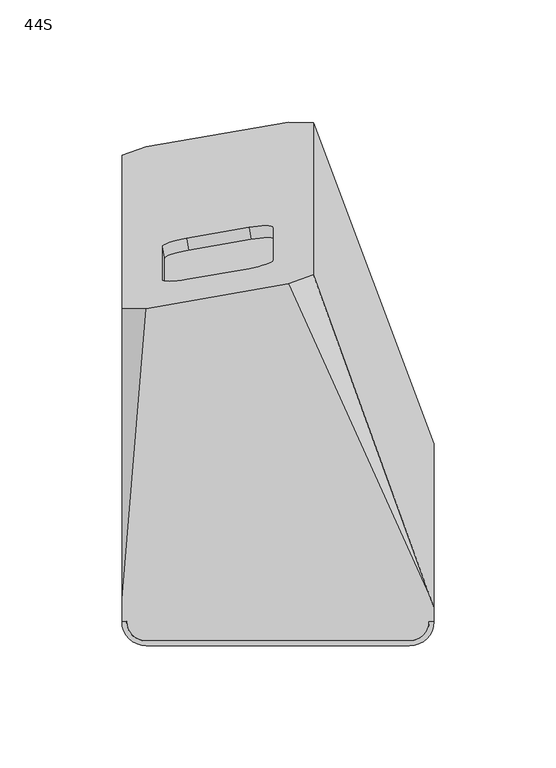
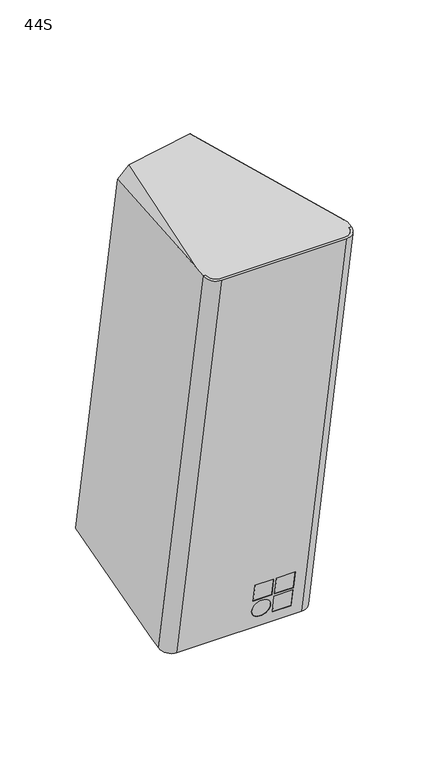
"""IFC4 building model written with IfcOpenShell, lengths in millimetres: proxy geometry, d&b xS-Series 44S Point Source : 44S."""

from ifc_helpers import new_model, si_unit, point, frame, frame_2d, origin, place, context, project, spatial, polyline, circle_curve, ellipse_curve, trimmed, segment, composite_curve, outline, extrude, source, transform, mapped, element, save
from ifc_brep_helpers import plane_surface, cylinder_surface, revolved_surface, advanced_brep


def proxy_44s_5af9e7c8(model_context):
    return source(origin(), model_context, "Body", "SolidModel", [
        advanced_brep(
        [(54.0, -106.4300743, 177.6469385), (-54.078429, -106.4300743, 177.6469385), (-62.0435242, -98.5621907, 178.8951081), (-64.0, -98.5621907, 178.8951081), (-54.0, -108.4401437, 177.3280589), (54.0, -108.4401437, 177.3280589), (64.0349048, -98.5277118, 178.9005778), (62.0, -98.5277118, 178.9005778), (-54.078429, -39.2527241, -203.3347465), (54.0, -39.2527241, -203.3347465), (62.0, -31.3981625, -201.810015), (64.0349048, -31.3981625, -201.810015), (54.0, -41.2506347, -203.7225819), (-54.0, -41.2506347, -203.7225819), (-64.0, -31.4324327, -201.8166675), (-62.0435242, -31.4324327, -201.8166675), (25.3333333, -44.2245591, -175.1380688), (25.3333333, -47.0608127, -159.0528755), (9.0, -47.0608127, -159.0528755), (9.0, -44.2245591, -175.1380688), (44.0, -44.2245591, -175.1380688), (44.0, -47.0608127, -159.0528755), (27.6666667, -47.0608127, -159.0528755), (27.6666667, -44.2245591, -175.1380688), (44.0, -40.9831265, -193.5211469), (44.0, -43.81938, -177.4359536), (27.6666667, -43.81938, -177.4359536), (27.6666667, -40.9831265, -193.5211469), (17.1666667, -43.81938, -177.4359536), (17.1666667, -40.9831265, -193.5211469), (25.3333333, -49.0648027, -159.406233), (25.3333333, -46.2285492, -175.4914263), (9.0, -46.2285492, -175.4914263), (9.0, -49.0648027, -159.406233), (44.0, -49.0648027, -159.406233), (44.0, -46.2285492, -175.4914263), (27.6666667, -46.2285492, -175.4914263), (27.6666667, -49.0648027, -159.406233), (44.0, -45.8233701, -177.7893111), (44.0, -42.9871165, -193.8745044), (27.6666667, -42.9871165, -193.8745044), (27.6666667, -45.8233701, -177.7893111), (17.1666667, -42.9871165, -193.8745044), (17.1666667, -45.8233701, -177.7893111)],
        [
            (0, 1),
            (1, 2, ellipse_curve(frame((-54.078429, -98.5621907, 178.8951081), z_axis=(0.0, 0.15668172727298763, -0.9876491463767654), x_axis=(0.0, 0.9876491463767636, 0.1566817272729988)), 7.9662739, 7.9650952)),
            (2, 3),
            (3, 4, ellipse_curve(frame((-54.0, -98.5621907, 178.8951081), z_axis=(0.0, -0.15668172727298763, 0.9876491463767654), x_axis=(0.0, -0.9876491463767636, -0.1566817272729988)), 10.0014799, 10.0)),
            (4, 5),
            (5, 6, ellipse_curve(frame((54.0, -98.5277118, 178.9005778), z_axis=(0.0, -0.15668172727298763, 0.9876491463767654), x_axis=(0.0, -0.9876491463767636, -0.1566817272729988)), 10.0363899, 10.0349048)),
            (6, 7),
            (7, 0, ellipse_curve(frame((54.0, -98.5277118, 178.9005778), z_axis=(0.0, 0.15668172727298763, -0.9876491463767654), x_axis=(0.0, 0.9876491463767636, 0.1566817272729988)), 8.0011839, 8.0)),
            (8, 9),
            (9, 10, ellipse_curve(frame((54.0, -31.3981625, -201.810015), z_axis=(0.0, -0.19056323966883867, 0.9816749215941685), x_axis=(0.0, -0.9816749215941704, -0.1905632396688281)), 8.0011839, 8.0)),
            (10, 11),
            (11, 12, ellipse_curve(frame((54.0, -31.3981625, -201.810015), z_axis=(0.0, 0.19056323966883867, -0.9816749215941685), x_axis=(0.0, 0.9816749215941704, 0.1905632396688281)), 10.0363899, 10.0349048)),
            (12, 13),
            (13, 14, ellipse_curve(frame((-54.0, -31.4324327, -201.8166675), z_axis=(0.0, 0.19056323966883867, -0.9816749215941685), x_axis=(0.0, 0.9816749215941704, 0.1905632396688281)), 10.0014799, 10.0)),
            (14, 15),
            (15, 8, ellipse_curve(frame((-54.078429, -31.4324327, -201.8166675), z_axis=(0.0, -0.19056323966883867, 0.9816749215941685), x_axis=(0.0, -0.9816749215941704, -0.1905632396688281)), 7.9662739, 7.9650952)),
            (0, 9),
            (8, 1),
            (16, 17),
            (17, 18),
            (18, 19),
            (19, 16),
            (20, 21),
            (21, 22),
            (22, 23),
            (23, 20),
            (24, 25),
            (25, 26),
            (26, 27),
            (27, 24),
            (28, 29, circle_curve(frame((17.1666667, -42.4012533, -185.4785502), z_axis=(0.0, -0.9848077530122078, -0.17364817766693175), x_axis=(0.0, -0.17364817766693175, 0.9848077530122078)), 8.1666667)),
            (29, 28, circle_curve(frame((17.1666667, -42.4012533, -185.4785502), z_axis=(0.0, -0.9848077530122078, -0.17364817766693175), x_axis=(0.0, -0.17364817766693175, 0.9848077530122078)), 8.1666667)),
            (15, 2),
            (14, 3),
            (13, 4),
            (12, 5),
            (30, 31),
            (31, 32),
            (32, 33),
            (33, 30),
            (34, 35),
            (35, 36),
            (36, 37),
            (37, 34),
            (38, 39),
            (39, 40),
            (40, 41),
            (41, 38),
            (42, 43, circle_curve(frame((17.1666667, -44.4052433, -185.8319078), z_axis=(0.0, 0.9848077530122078, 0.17364817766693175), x_axis=(0.0, -0.17364817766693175, 0.9848077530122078)), 8.1666667)),
            (43, 42, circle_curve(frame((17.1666667, -44.4052433, -185.8319078), z_axis=(0.0, 0.9848077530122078, 0.17364817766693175), x_axis=(0.0, -0.17364817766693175, 0.9848077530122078)), 8.1666667)),
            (11, 6),
            (10, 7),
            (16, 31),
            (30, 17),
            (19, 32),
            (18, 33),
            (20, 35),
            (34, 21),
            (23, 36),
            (22, 37),
            (24, 39),
            (38, 25),
            (27, 40),
            (26, 41),
            (28, 43),
            (42, 29),
        ],
        [
            plane_surface(frame((100.0, -129.4835015, 173.9897179), z_axis=(0.0, -0.15668172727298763, 0.9876491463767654), x_axis=(-1.0, 0.0, 0.0))),
            plane_surface(frame((100.0, 115.8297472, -173.2300576), z_axis=(0.0, 0.19056323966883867, -0.9816749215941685), x_axis=(-1.0, 0.0, 0.0))),
            plane_surface(frame((54.0, -108.0051552, 186.579666), z_axis=(0.0, 0.9848077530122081, 0.17364817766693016), x_axis=(0.0, 0.17364817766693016, -0.9848077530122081))),
            revolved_surface(polyline([(-46.1133338, -31.408636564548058, -201.95162222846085), (-46.1133338, -98.58598679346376, 179.03006281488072)]), (-54.078429, -29.8335557, -210.8843497), (0.0, 0.17364817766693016, -0.9848077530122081)),
            plane_surface(frame((-62.0435242, -100.1610677, 187.9627903), z_axis=(0.0, 0.9848077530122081, 0.17364817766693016), x_axis=(0.0, 0.17364817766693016, -0.9848077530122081))),
            cylinder_surface(frame((-54.0, -29.8335557, -210.8843497), z_axis=(0.0, -0.17364817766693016, 0.9848077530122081), x_axis=(1.0, 0.0, 0.0)), 10.0),
            plane_surface(frame((-54.0, -110.0091452, 186.2263085), z_axis=(0.0, -0.9848077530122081, -0.17364817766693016), x_axis=(0.0, 0.17364817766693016, -0.9848077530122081))),
            cylinder_surface(frame((54.0, -29.7991812, -210.8782886), z_axis=(0.0, -0.17364817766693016, 0.9848077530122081), x_axis=(1.0, 0.0, 0.0)), 10.0349048),
            plane_surface(frame((64.0349048, -100.1266931, 187.9688514), z_axis=(0.0, 0.9848077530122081, 0.17364817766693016), x_axis=(0.0, 0.17364817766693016, -0.9848077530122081))),
            revolved_surface(polyline([(62.0, -31.374262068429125, -201.9455611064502), (62.0, -98.55161229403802, 179.03612391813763)]), (54.0, -29.7991812, -210.8782886), (0.0, 0.17364817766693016, -0.9848077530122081)),
            plane_surface(frame((25.3333333, -46.2285492, -175.4914263), z_axis=(-1.0, 0.0, 0.0), x_axis=(0.0, 0.9848077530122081, 0.17364817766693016))),
            plane_surface(frame((9.0, -46.2285492, -175.4914263), z_axis=(0.0, -0.17364817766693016, 0.9848077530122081), x_axis=(0.0, 0.9848077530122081, 0.17364817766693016))),
            plane_surface(frame((9.0, -49.0648027, -159.406233), z_axis=(1.0, 0.0, 0.0), x_axis=(0.0, 0.9848077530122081, 0.17364817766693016))),
            plane_surface(frame((25.3333333, -49.0648027, -159.406233), z_axis=(0.0, 0.17364817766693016, -0.9848077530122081), x_axis=(0.0, 0.9848077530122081, 0.17364817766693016))),
            plane_surface(frame((44.0, -46.2285492, -175.4914263), z_axis=(-1.0, 0.0, 0.0), x_axis=(0.0, 0.9848077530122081, 0.17364817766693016))),
            plane_surface(frame((27.6666667, -46.2285492, -175.4914263), z_axis=(0.0, -0.17364817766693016, 0.9848077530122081), x_axis=(0.0, 0.9848077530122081, 0.17364817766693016))),
            plane_surface(frame((27.6666667, -49.0648027, -159.406233), z_axis=(1.0000000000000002, 0.0, 0.0), x_axis=(0.0, 0.9848077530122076, 0.1736481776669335))),
            plane_surface(frame((44.0, -49.0648027, -159.406233), z_axis=(0.0, 0.1736481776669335, -0.9848077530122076), x_axis=(0.0, 0.9848077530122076, 0.1736481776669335))),
            plane_surface(frame((44.0, -42.9871165, -193.8745044), z_axis=(-1.0, 0.0, 0.0), x_axis=(0.0, 0.9848077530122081, 0.17364817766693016))),
            plane_surface(frame((27.6666667, -42.9871165, -193.8745044), z_axis=(0.0, -0.17364817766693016, 0.9848077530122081), x_axis=(0.0, 0.9848077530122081, 0.17364817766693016))),
            plane_surface(frame((27.6666667, -45.8233701, -177.7893111), z_axis=(1.0, 0.0, 0.0), x_axis=(0.0, 0.9848077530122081, 0.17364817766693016))),
            plane_surface(frame((44.0, -45.8233701, -177.7893111), z_axis=(0.0, 0.17364817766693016, -0.9848077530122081), x_axis=(0.0, 0.9848077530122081, 0.17364817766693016))),
            revolved_surface(polyline([(17.1666667, -45.82337010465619, -177.78931107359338), (17.1666667, -43.8193800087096, -177.43595355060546)]), (17.1666667, 14.9316807, -175.3692071), (0.0, -0.9848077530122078, -0.17364817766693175)),
        ],
        [
            (0, [[1, 2, 3, 4, 5, 6, 7, 8]]),
            (1, [[9, 10, 11, 12, 13, 14, 15, 16]]),
            (2, [[17, -9, 18, -1], [19, 20, 21, 22], [23, 24, 25, 26], [27, 28, 29, 30], [31, 32]]),
            (3, [[-18, -16, 33, -2]]),
            (4, [[-33, -15, 34, -3]]),
            (5, [[-34, -14, 35, -4]]),
            (6, [[-35, -13, 36, -5], [37, 38, 39, 40], [41, 42, 43, 44], [45, 46, 47, 48], [49, 50]]),
            (7, [[-36, -12, 51, -6]]),
            (8, [[-51, -11, 52, -7]]),
            (9, [[-17, -8, -52, -10]]),
            (10, [[53, -37, 54, -19]]),
            (11, [[-53, -22, 55, -38]]),
            (12, [[-55, -21, 56, -39]]),
            (13, [[-56, -20, -54, -40]]),
            (14, [[57, -41, 58, -23]]),
            (15, [[-57, -26, 59, -42]]),
            (16, [[-59, -25, 60, -43]]),
            (17, [[-60, -24, -58, -44]]),
            (18, [[61, -45, 62, -27]]),
            (19, [[-61, -30, 63, -46]]),
            (20, [[-63, -29, 64, -47]]),
            (21, [[-64, -28, -62, -48]]),
            (22, [[65, -49, 66, -31]]),
            (22, [[-65, -32, -66, -50]]),
        ],
    ),
        extrude(outline(polyline([(0.0, -16.3333333), (0.0, 0.0), (5.0, 0.0), (5.0, -16.3333333), (0.0, -16.3333333)])), frame((9.0, -46.2285492, -175.4914263), z_axis=(0.0, -0.17364817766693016, 0.9848077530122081), x_axis=(0.0, 0.9848077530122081, 0.17364817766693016)), (0.0, 0.0, 1.0), 16.3333333),
        extrude(outline(polyline([(0.0, -16.3333333), (0.0, 0.0), (5.0, 0.0), (5.0, -16.3333333), (0.0, -16.3333333)])), frame((27.6666667, -46.2285492, -175.4914263), z_axis=(0.0, -0.17364817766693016, 0.9848077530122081), x_axis=(0.0, 0.9848077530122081, 0.17364817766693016)), (0.0, 0.0, 1.0), 16.3333333),
        extrude(outline(polyline([(0.0, -16.3333333), (0.0, 0.0), (5.0, 0.0), (5.0, -16.3333333), (0.0, -16.3333333)])), frame((27.6666667, -42.9871165, -193.8745044), z_axis=(0.0, -0.17364817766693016, 0.9848077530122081), x_axis=(0.0, 0.9848077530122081, 0.17364817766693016)), (0.0, 0.0, 1.0), 16.3333333),
        extrude(outline(composite_curve([segment(trimmed(circle_curve(frame_2d((-17.5, -26.8333334)), 8.1666667), [point((-17.5, -35.0))], [point((-17.5, -18.6666667))], False, "CARTESIAN"), True, "CONTINUOUS"), segment(trimmed(circle_curve(frame_2d((-17.5, -26.8333334)), 8.1666667), [point((-17.5, -18.6666667))], [point((-17.5, -35.0))], False, "CARTESIAN"), True, "CONTINUOUS")], self_intersect=False)), frame((-0.3333333, -49.0648027, -159.406233), z_axis=(0.0, 0.9848077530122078, 0.17364817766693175), x_axis=(-1.0, 0.0, 0.0)), (0.0, 0.0, 1.0), 5.0),
        advanced_brep(
        [(-64.0, -98.5621907, 178.8951081), (-62.0435242, -98.5621907, 178.8951081), (-54.078429, -106.4300743, 177.6469385), (54.0, -106.4300743, 177.6469385), (62.0, -98.5277118, 178.9005778), (64.0, -98.5277118, 178.9005778), (64.0, -92.6698976, 179.8298678), (62.7855103, -89.3729932, 180.3528923), (4.3760941, 39.9414037, 200.8674679), (-54.074657, 29.7607462, 199.2523974), (-64.0, -89.3729932, 180.3528923), (-62.0435242, -31.4324327, -201.8166675), (-64.0, -31.4324327, -201.8166675), (-64.0, -22.2988201, -200.043646), (-54.074657, 96.1142871, -177.0572328), (4.3760941, 106.2333624, -175.0929127), (62.7855103, -22.2988201, -200.043646), (64.0, -25.5757818, -200.6797714), (64.0, -31.3981625, -201.810015), (62.0, -31.3981625, -201.810015), (54.0, -39.2527241, -203.3347465), (-54.078429, -39.2527241, -203.3347465), (-64.0, 29.7305077, 189.3454307), (-64.0, 92.6974901, -167.7580715), (14.5000481, 106.0897229, -163.9981602), (14.5000481, 43.6010555, 190.3926832), (-11.9474751, 46.2025524, 148.7833423), (-37.5524767, 41.7562905, 147.9993464), (-47.4005542, 41.7826716, 137.849732), (-47.4005542, 55.1535813, 62.019535), (-37.5524767, 58.6001638, 52.4729943), (-11.9474751, 63.0464256, 53.2569903), (-2.0993976, 63.0200446, 63.4066047), (-2.0993976, 49.6491349, 139.2368017), (-11.0792343, 41.3533208, 147.928292), (-1.2311567, 44.7999033, 138.3817513), (-1.2311567, 58.170813, 62.5515543), (-11.0792343, 58.1971941, 52.4019399), (-36.6842358, 53.7509322, 51.617944), (-46.5323134, 50.3043497, 61.1644846), (-46.5323134, 36.93344, 136.9946816), (-36.6842358, 36.907059, 147.144296)],
        [
            (0, 1),
            (1, 2, ellipse_curve(frame((-54.078429, -98.5621907, 178.8951081), z_axis=(0.0, -0.15668172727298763, 0.9876491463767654), x_axis=(0.0, -0.9876491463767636, -0.1566817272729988)), 7.9662739, 7.9650952)),
            (2, 3),
            (3, 4, ellipse_curve(frame((54.0, -98.5277118, 178.9005778), z_axis=(0.0, -0.15668172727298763, 0.9876491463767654), x_axis=(0.0, -0.9876491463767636, -0.1566817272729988)), 8.0011839, 8.0)),
            (4, 5),
            (5, 6),
            (6, 7),
            (7, 8),
            (8, 9),
            (9, 10),
            (10, 0),
            (11, 12),
            (12, 13),
            (13, 14),
            (14, 15),
            (15, 16),
            (16, 17),
            (17, 18),
            (18, 19),
            (19, 20, ellipse_curve(frame((54.0, -31.3981625, -201.810015), z_axis=(0.0, 0.19056323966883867, -0.9816749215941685), x_axis=(0.0, 0.9816749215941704, 0.1905632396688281)), 8.0011839, 8.0)),
            (20, 21),
            (21, 11, ellipse_curve(frame((-54.078429, -31.4324327, -201.8166675), z_axis=(0.0, 0.19056323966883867, -0.9816749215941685), x_axis=(0.0, 0.9816749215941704, 0.1905632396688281)), 7.9662739, 7.9650952)),
            (0, 12),
            (11, 1),
            (21, 2),
            (20, 3),
            (19, 4),
            (18, 5),
            (17, 6),
            (10, 22),
            (22, 23),
            (23, 13),
            (16, 24),
            (24, 25),
            (25, 7),
            (9, 22),
            (23, 14),
            (15, 24),
            (25, 8),
            (26, 27),
            (27, 28, circle_curve(frame((-37.5524767, 43.4927723, 138.1512689), z_axis=(0.17364817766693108, -0.9698463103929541, -0.17101007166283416), x_axis=(0.9848077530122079, 0.17101007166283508, 0.0301536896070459)), 10.0)),
            (28, 29),
            (29, 30, circle_curve(frame((-37.5524767, 56.863682, 62.3210719), z_axis=(0.17364817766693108, -0.9698463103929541, -0.17101007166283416), x_axis=(0.9848077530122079, 0.17101007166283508, 0.0301536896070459)), 10.0)),
            (30, 31),
            (31, 32, circle_curve(frame((-11.9474751, 61.3099439, 63.1050678), z_axis=(0.17364817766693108, -0.9698463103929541, -0.17101007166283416), x_axis=(0.9848077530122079, 0.17101007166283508, 0.0301536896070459)), 10.0)),
            (32, 33),
            (33, 26, circle_curve(frame((-11.9474751, 47.9390342, 138.9352648), z_axis=(0.17364817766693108, -0.9698463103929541, -0.17101007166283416), x_axis=(0.9848077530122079, 0.17101007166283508, 0.0301536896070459)), 10.0)),
            (34, 35, circle_curve(frame((-11.0792343, 43.0898026, 138.0802144), z_axis=(-0.17364817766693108, 0.9698463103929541, 0.17101007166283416), x_axis=(0.9848077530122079, 0.17101007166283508, 0.0301536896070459)), 10.0)),
            (35, 36),
            (36, 37, circle_curve(frame((-11.0792343, 56.4607123, 62.2500174), z_axis=(-0.17364817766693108, 0.9698463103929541, 0.17101007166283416), x_axis=(0.9848077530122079, 0.17101007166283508, 0.0301536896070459)), 10.0)),
            (37, 38),
            (38, 39, circle_curve(frame((-36.6842358, 52.0144504, 61.4660215), z_axis=(-0.17364817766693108, 0.9698463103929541, 0.17101007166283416), x_axis=(0.9848077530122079, 0.17101007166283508, 0.0301536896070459)), 10.0)),
            (39, 40),
            (40, 41, circle_curve(frame((-36.6842358, 38.6435408, 137.2962185), z_axis=(-0.17364817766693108, 0.9698463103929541, 0.17101007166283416), x_axis=(0.9848077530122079, 0.17101007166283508, 0.0301536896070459)), 10.0)),
            (41, 34),
            (41, 27),
            (26, 34),
            (40, 28),
            (39, 29),
            (38, 30),
            (37, 31),
            (36, 32),
            (35, 33),
        ],
        [
            plane_surface(frame((100.0, -129.4835015, 173.9897179), z_axis=(0.0, -0.15668172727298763, 0.9876491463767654), x_axis=(-1.0, 0.0, 0.0))),
            plane_surface(frame((100.0, 115.8297472, -173.2300576), z_axis=(0.0, 0.19056323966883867, -0.9816749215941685), x_axis=(-1.0, 0.0, 0.0))),
            plane_surface(frame((-64.0, -100.9677078, 192.5374736), z_axis=(0.0, -0.9848077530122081, -0.17364817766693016), x_axis=(0.0, 0.17364817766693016, -0.9848077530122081))),
            cylinder_surface(frame((-54.078429, -29.0269156, -215.4590331), z_axis=(0.0, -0.17364817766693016, 0.9848077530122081), x_axis=(-1.0, 0.0, 0.0)), 7.9650952),
            plane_surface(frame((-54.078429, -108.8117953, 191.1543494), z_axis=(0.0, -0.9848077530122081, -0.17364817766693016), x_axis=(0.0, 0.17364817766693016, -0.9848077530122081))),
            cylinder_surface(frame((54.0, -28.9925411, -215.4529719), z_axis=(0.0, -0.17364817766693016, 0.9848077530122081), x_axis=(-1.0, 0.0, 0.0)), 8.0),
            plane_surface(frame((62.0, -100.9333333, 192.5435348), z_axis=(0.0, -0.9848077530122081, -0.17364817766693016), x_axis=(0.0, 0.17364817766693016, -0.9848077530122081))),
            plane_surface(frame((64.0, -100.9333333, 192.5435348), z_axis=(1.0, 0.0, 0.0), x_axis=(0.0, 0.17364817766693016, -0.9848077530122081))),
            plane_surface(frame((-64.0, -95.0932358, 193.5733015), z_axis=(-1.0, 0.0, 0.0), x_axis=(0.0, 0.17364817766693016, -0.9848077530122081))),
            plane_surface(frame((14.5000481, 74.8453892, 13.1972615), z_axis=(0.9397208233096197, 0.3367477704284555, 0.05937771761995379), x_axis=(0.0, -0.17364817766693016, 0.9848077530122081))),
            plane_surface(frame((-57.232233, 42.4258451, 197.0576326), z_axis=(-0.7053631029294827, -0.05336732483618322, 0.7068343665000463), x_axis=(-0.7071067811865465, 0.12278780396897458, -0.6963642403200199))),
            plane_surface(frame((-57.232233, 107.2649333, -170.6631096), z_axis=(-0.7053631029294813, 0.1916027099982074, -0.6824597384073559), x_axis=(0.7071067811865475, 0.12278780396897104, -0.6963642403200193))),
            plane_surface(frame((7.7322812, 107.2649333, -170.6631096), z_axis=(0.6719558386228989, 0.42332258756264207, -0.6076786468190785), x_axis=(0.7071067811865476, -0.12278780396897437, 0.6963642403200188))),
            plane_surface(frame((7.7322812, 42.4258451, 197.0576326), z_axis=(0.6719558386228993, 0.1899547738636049, 0.7158159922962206), x_axis=(-0.7071067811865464, -0.12278780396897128, 0.6963642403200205))),
            plane_surface(frame((-81.2585403, 14.8050404, 256.4671811), z_axis=(-0.17364817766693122, 0.9698463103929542, 0.1710100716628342), x_axis=(0.0, 0.17364817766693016, -0.9848077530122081))),
            plane_surface(frame((-63.1317591, 32.3144948, 146.334503), z_axis=(-0.1736481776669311, 0.9698463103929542, 0.17101007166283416), x_axis=(-0.984807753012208, -0.17101007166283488, -0.030153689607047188))),
            plane_surface(frame((-11.0792343, 41.3533208, 147.928292), z_axis=(0.0, 0.17364817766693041, -0.9848077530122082), x_axis=(-0.17364817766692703, 0.9698463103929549, 0.1710100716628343))),
            revolved_surface(polyline([(-26.836158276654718, 40.353641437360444, 137.597755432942), (-27.704399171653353, 45.20287302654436, 138.45280579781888)]), (-37.5524767, 43.4927723, 138.1512689), (0.17364817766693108, -0.9698463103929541, -0.17101007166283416)),
            plane_surface(frame((-46.5323134, 36.93344, 136.9946816), z_axis=(0.9848077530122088, 0.17101007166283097, 0.03015368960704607), x_axis=(-0.17364817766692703, 0.9698463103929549, 0.1710100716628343))),
            revolved_surface(polyline([(-26.836158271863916, 53.72455111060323, 61.76755842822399), (-27.704399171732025, 58.57378272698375, 62.6226087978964)]), (-37.5524767, 56.863682, 62.3210719), (0.17364817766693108, -0.9698463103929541, -0.17101007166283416)),
            plane_surface(frame((-36.6842358, 53.7509322, 51.617944), z_axis=(0.0, -0.17364817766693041, 0.9848077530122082), x_axis=(-0.17364817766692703, 0.9698463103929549, 0.1710100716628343))),
            revolved_surface(polyline([(-1.2311566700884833, 58.170813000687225, 62.55155432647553), (-2.0993975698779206, 63.020044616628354, 63.40660469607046)]), (-11.9474751, 61.3099439, 63.1050678), (0.17364817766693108, -0.9698463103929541, -0.17101007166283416)),
            plane_surface(frame((-1.2311567, 58.170813, 62.5515543), z_axis=(-0.9848077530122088, -0.1710100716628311, -0.0301536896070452), x_axis=(-0.17364817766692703, 0.9698463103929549, 0.1710100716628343))),
            revolved_surface(polyline([(-1.231156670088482, 44.79990330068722, 138.38175132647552), (-2.0993975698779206, 49.649134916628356, 139.23680169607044)]), (-11.9474751, 47.9390342, 138.9352648), (0.17364817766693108, -0.9698463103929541, -0.17101007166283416)),
        ],
        [
            (0, [[1, 2, 3, 4, 5, 6, 7, 8, 9, 10, 11]]),
            (1, [[12, 13, 14, 15, 16, 17, 18, 19, 20, 21, 22]]),
            (2, [[23, -12, 24, -1]]),
            (3, [[-24, -22, 25, -2]]),
            (4, [[-25, -21, 26, -3]]),
            (5, [[-26, -20, 27, -4]]),
            (6, [[-27, -19, 28, -5]]),
            (7, [[-28, -18, 29, -6]]),
            (8, [[-23, -11, 30, 31, 32, -13]]),
            (9, [[-29, -17, 33, 34, 35, -7]]),
            (10, [[-30, -10, 36]]),
            (11, [[-32, 37, -14]]),
            (12, [[-33, -16, 38]]),
            (13, [[-35, 39, -8]]),
            (14, [[-31, -36, -9, -39, -34, -38, -15, -37], [40, 41, 42, 43, 44, 45, 46, 47]]),
            (15, [[48, 49, 50, 51, 52, 53, 54, 55]]),
            (16, [[-55, 56, -40, 57]]),
            (17, [[-54, 58, -41, -56]]),
            (18, [[-53, 59, -42, -58]]),
            (19, [[-52, 60, -43, -59]]),
            (20, [[-51, 61, -44, -60]]),
            (21, [[-50, 62, -45, -61]]),
            (22, [[-49, 63, -46, -62]]),
            (23, [[-48, -57, -47, -63]]),
        ],
    ),
    ])


if __name__ == "__main__":
    model = new_model("IFC4")
    model_context = context("Model", 3, world=origin())
    ifc_project = project(units=[si_unit("LENGTHUNIT", "METRE", prefix="MILLI")], contexts=[model_context])
    site = spatial("IfcSite", under=ifc_project)
    building = spatial("IfcBuilding", under=site)
    placement = place(None, origin())
    proxy_44s_shape = proxy_44s_5af9e7c8(model_context)
    element("IfcBuildingElementProxy", 1, Name="d&b xS-Series 44S Point Source : 44S", ObjectType="d&b xS-Series 44S Point Source : 44S", at=placement, inside=building, context=model_context, shape_type="MappedRepresentation", body=[
        mapped(proxy_44s_shape, transform((0.0, 0.0, 0.0), x_axis=(1.0, 0.0, 0.0), y_axis=(0.0, 1.0, 0.0), z_axis=(0.0, 0.0, 1.0))),
    ])
    save(model, "model.ifc")
